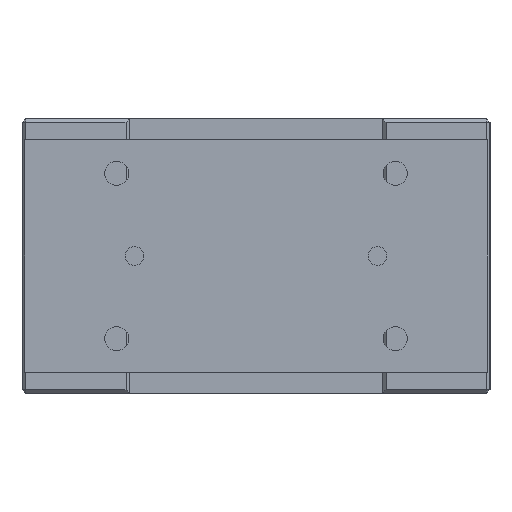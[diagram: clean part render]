
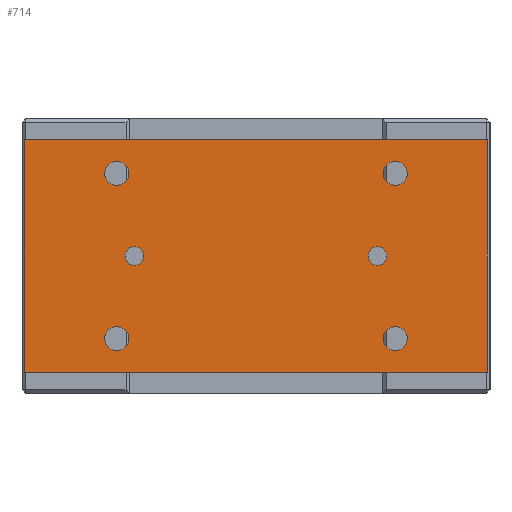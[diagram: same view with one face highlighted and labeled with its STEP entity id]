
A CAD part, left-side view. The second image highlights one B-rep face of the part: STEP entity #714.
In plain terms, the highlighted planar face has unit normal (-1, 0, 0).
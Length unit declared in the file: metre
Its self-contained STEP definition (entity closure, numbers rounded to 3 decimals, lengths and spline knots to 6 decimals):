
#714 = ADVANCED_FACE( '', ( #1574, #1575, #1576, #1577, #1578, #1579, #1580 ), #1581, .T. );
#1574 = FACE_BOUND( '', #2468, .T. );
#1575 = FACE_BOUND( '', #2469, .T. );
#1576 = FACE_BOUND( '', #2470, .T. );
#1577 = FACE_BOUND( '', #2471, .T. );
#1578 = FACE_BOUND( '', #2472, .T. );
#1579 = FACE_BOUND( '', #2473, .T. );
#1580 = FACE_OUTER_BOUND( '', #2474, .T. );
#1581 = PLANE( '', #2475 );
#2468 = EDGE_LOOP( '', ( #4159 ) );
#2469 = EDGE_LOOP( '', ( #4160 ) );
#2470 = EDGE_LOOP( '', ( #4161 ) );
#2471 = EDGE_LOOP( '', ( #4162 ) );
#2472 = EDGE_LOOP( '', ( #4163 ) );
#2473 = EDGE_LOOP( '', ( #4164 ) );
#2474 = EDGE_LOOP( '', ( #4165, #4166, #4167, #4168 ) );
#2475 = AXIS2_PLACEMENT_3D( '', #4169, #4170, #4171 );
#4159 = ORIENTED_EDGE( '', *, *, #4493, .F. );
#4160 = ORIENTED_EDGE( '', *, *, #4906, .T. );
#4161 = ORIENTED_EDGE( '', *, *, #4870, .F. );
#4162 = ORIENTED_EDGE( '', *, *, #4712, .F. );
#4163 = ORIENTED_EDGE( '', *, *, #4896, .F. );
#4164 = ORIENTED_EDGE( '', *, *, #4452, .F. );
#4165 = ORIENTED_EDGE( '', *, *, #4594, .T. );
#4166 = ORIENTED_EDGE( '', *, *, #4689, .T. );
#4167 = ORIENTED_EDGE( '', *, *, #4892, .T. );
#4168 = ORIENTED_EDGE( '', *, *, #4876, .T. );
#4169 = CARTESIAN_POINT( '', ( -0.143, -0.1245, -0.0115 ) );
#4170 = DIRECTION( '', ( -1., 0., 0. ) );
#4171 = DIRECTION( '', ( 0., 0., 1. ) );
#4452 = EDGE_CURVE( '', #5203, #5203, #5204, .T. );
#4493 = EDGE_CURVE( '', #5264, #5264, #5265, .T. );
#4594 = EDGE_CURVE( '', #5415, #5413, #5416, .T. );
#4689 = EDGE_CURVE( '', #5413, #5555, #5557, .T. );
#4712 = EDGE_CURVE( '', #5590, #5590, #5591, .T. );
#4870 = EDGE_CURVE( '', #5793, #5793, #5794, .T. );
#4876 = EDGE_CURVE( '', #5799, #5415, #5800, .T. );
#4892 = EDGE_CURVE( '', #5555, #5799, #5817, .T. );
#4896 = EDGE_CURVE( '', #5821, #5821, #5822, .T. );
#4906 = EDGE_CURVE( '', #5833, #5833, #5834, .T. );
#5203 = VERTEX_POINT( '', #6215 );
#5204 = CIRCLE( '', #6216, 0.0065 );
#5264 = VERTEX_POINT( '', #6324 );
#5265 = CIRCLE( '', #6325, 0.005 );
#5413 = VERTEX_POINT( '', #6615 );
#5415 = VERTEX_POINT( '', #6618 );
#5416 = LINE( '', #6619, #6620 );
#5555 = VERTEX_POINT( '', #6840 );
#5557 = LINE( '', #6843, #6844 );
#5590 = VERTEX_POINT( '', #6883 );
#5591 = CIRCLE( '', #6884, 0.0065 );
#5793 = VERTEX_POINT( '', #7197 );
#5794 = CIRCLE( '', #7198, 0.0065 );
#5799 = VERTEX_POINT( '', #7203 );
#5800 = LINE( '', #7204, #7205 );
#5817 = LINE( '', #7259, #7260 );
#5821 = VERTEX_POINT( '', #7264 );
#5822 = CIRCLE( '', #7265, 0.0065 );
#5833 = VERTEX_POINT( '', #7277 );
#5834 = CIRCLE( '', #7278, 0.005 );
#6215 = CARTESIAN_POINT( '', ( -0.143, 0.075, -0.023 ) );
#6216 = AXIS2_PLACEMENT_3D( '', #7494, #7495, #7496 );
#6324 = CARTESIAN_POINT( '', ( -0.143, -0.0705, -0.074 ) );
#6325 = AXIS2_PLACEMENT_3D( '', #7542, #7543, #7544 );
#6615 = CARTESIAN_POINT( '', ( -0.143, -0.1245, -0.0115 ) );
#6618 = CARTESIAN_POINT( '', ( -0.143, -0.1245, -0.1365 ) );
#6619 = CARTESIAN_POINT( '', ( -0.143, -0.1245, -0.1365 ) );
#6620 = VECTOR( '', #7661, 1. );
#6840 = CARTESIAN_POINT( '', ( -0.143, 0.1245, -0.0115 ) );
#6843 = CARTESIAN_POINT( '', ( -0.143, -0.1245, -0.0115 ) );
#6844 = VECTOR( '', #7753, 1. );
#6883 = CARTESIAN_POINT( '', ( -0.143, 0.075, -0.112 ) );
#6884 = AXIS2_PLACEMENT_3D( '', #7778, #7779, #7780 );
#7197 = CARTESIAN_POINT( '', ( -0.143, -0.075, -0.112 ) );
#7198 = AXIS2_PLACEMENT_3D( '', #7931, #7932, #7933 );
#7203 = CARTESIAN_POINT( '', ( -0.143, 0.1245, -0.1365 ) );
#7204 = CARTESIAN_POINT( '', ( -0.143, 0.1245, -0.1365 ) );
#7205 = VECTOR( '', #7934, 1. );
#7259 = CARTESIAN_POINT( '', ( -0.143, 0.1245, -0.0115 ) );
#7260 = VECTOR( '', #7942, 1. );
#7264 = CARTESIAN_POINT( '', ( -0.143, -0.075, -0.023 ) );
#7265 = AXIS2_PLACEMENT_3D( '', #7943, #7944, #7945 );
#7277 = CARTESIAN_POINT( '', ( -0.143, 0.0705, -0.074 ) );
#7278 = AXIS2_PLACEMENT_3D( '', #7950, #7951, #7952 );
#7494 = CARTESIAN_POINT( '', ( -0.143, 0.075, -0.0295 ) );
#7495 = DIRECTION( '', ( -1., 0., 0. ) );
#7496 = DIRECTION( '', ( 0., 0., 1. ) );
#7542 = CARTESIAN_POINT( '', ( -0.143, -0.0655, -0.074 ) );
#7543 = DIRECTION( '', ( -1., 0., 0. ) );
#7544 = DIRECTION( '', ( 0., -1., 0. ) );
#7661 = DIRECTION( '', ( 0., 0., 1. ) );
#7753 = DIRECTION( '', ( 0., 1., 0. ) );
#7778 = CARTESIAN_POINT( '', ( -0.143, 0.075, -0.1185 ) );
#7779 = DIRECTION( '', ( -1., 0., 0. ) );
#7780 = DIRECTION( '', ( 0., 0., 1. ) );
#7931 = CARTESIAN_POINT( '', ( -0.143, -0.075, -0.1185 ) );
#7932 = DIRECTION( '', ( -1., 0., 0. ) );
#7933 = DIRECTION( '', ( 0., 0., 1. ) );
#7934 = DIRECTION( '', ( 0., -1., 0. ) );
#7942 = DIRECTION( '', ( 0., 0., -1. ) );
#7943 = CARTESIAN_POINT( '', ( -0.143, -0.075, -0.0295 ) );
#7944 = DIRECTION( '', ( -1., 0., 0. ) );
#7945 = DIRECTION( '', ( 0., 0., 1. ) );
#7950 = CARTESIAN_POINT( '', ( -0.143, 0.0655, -0.074 ) );
#7951 = DIRECTION( '', ( 1., 0., 0. ) );
#7952 = DIRECTION( '', ( 0., 1., 0. ) );
